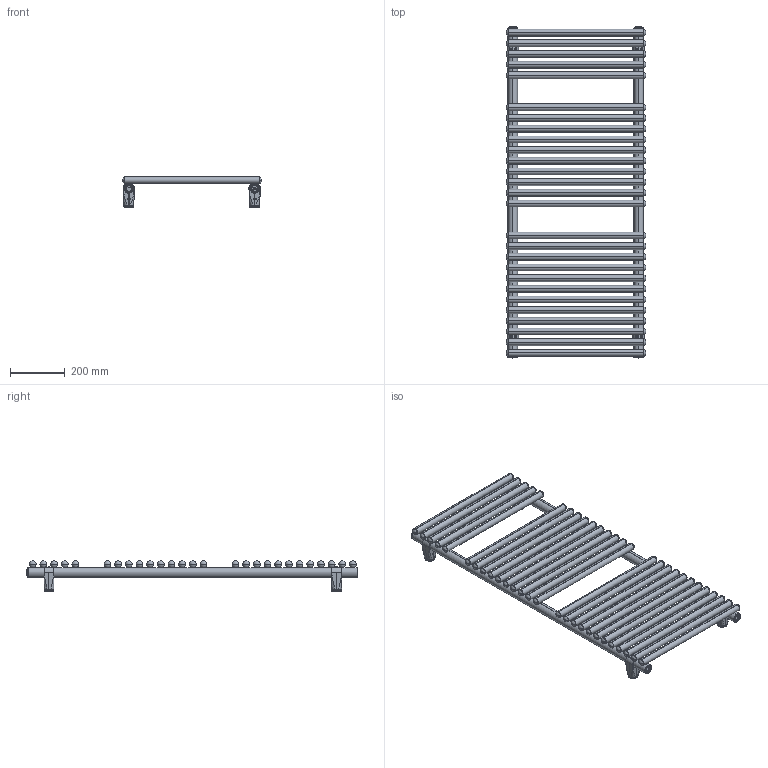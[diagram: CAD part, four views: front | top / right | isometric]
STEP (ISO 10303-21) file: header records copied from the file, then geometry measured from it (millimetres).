
FILE_DESCRIPTION (( 'STEP AP203' ), '1' );
FILE_NAME ('511225.STEP', '2026-03-05T10:21:47', ( '' ), ( '' ), 'SwSTEP 2.0', 'SolidWorks 2025', '' );
FILE_SCHEMA (( 'CONFIG_CONTROL_DESIGN' ));
Length unit declared in the file: millimetre
Products named in the file (10): supporto_2.prt; 511225; COLLETTORE INT 39 [Con configurazioni]_1207 GABBIANO; TRAVERSINO TONDO 25 [Con configurazioni]_510; supporto.asm; tappo_sx.prt; supporto-MANINA-BUS; tappo_sfiato.prt; supporto_1.prt; supporto_3.prt
Assembly tree (39 placements, depth 4):
  511225
    TRAVERSINO TONDO 25 [Con configurazioni]_510  x27
    COLLETTORE INT 39 [Con configurazioni]_1207 GABBIANO  x2
    tappo_sx.prt
    tappo_sfiato.prt
    supporto-MANINA-BUS  x4
      supporto.asm
        supporto_1.prt
        supporto_2.prt
        supporto_3.prt
Bounding box: 510 x 1213 x 111 mm (x, y, z)
Volume: 2151627.9 mm3; surface area: 2650153.8 mm2
Topology: 41 solids, 45 shells, 1565 faces, 4128 edges, 2489 vertices
Faces by surface type: cylinder 608, bspline 337, sphere 272, plane 218, torus 128, cone 2
Entity records: 32270 total; most frequent: CARTESIAN_POINT 20643, ORIENTED_EDGE 2412, DIRECTION 1476, EDGE_CURVE 1210, VERTEX_POINT 723, B_SPLINE_CURVE_WITH_KNOTS 681, AXIS2_PLACEMENT_3D 600, EDGE_LOOP 474
